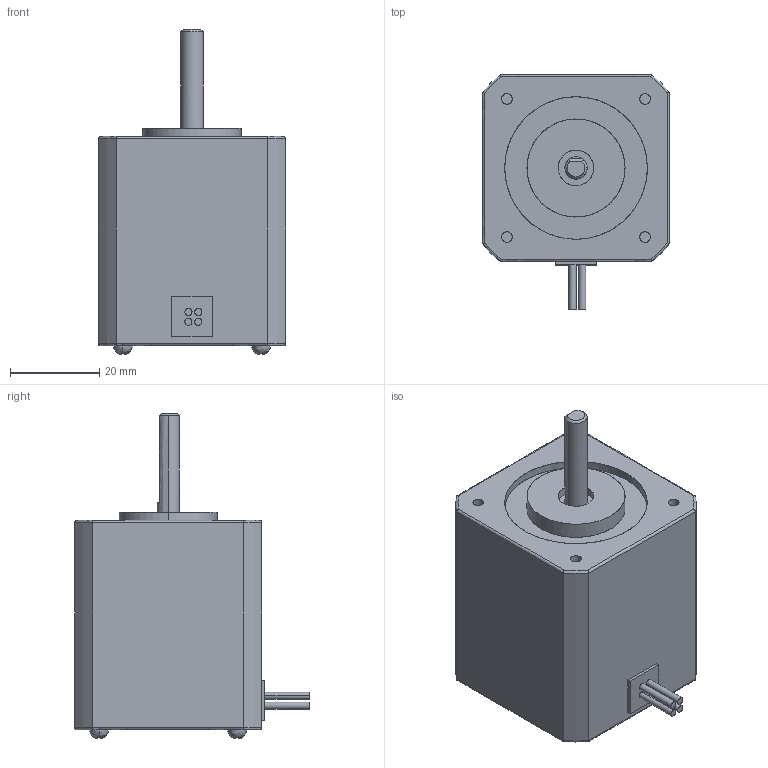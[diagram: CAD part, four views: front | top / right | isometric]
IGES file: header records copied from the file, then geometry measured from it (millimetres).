
Global section: file name: C:\DOCUME~1\PC001\BM-42L-C.igs; preprocessor: I-DEAS 3D IGES Translator 12; date: 20100107.192710; units: millimetre
Bounding box: 42 x 52.7 x 72.98 mm (x, y, z)
Surface area: 12145.3 mm2 (no closed solid volume)
Topology: 0 solids, 0 shells, 148 faces, 875 edges, 914 vertices
Faces by surface type: bspline 148
